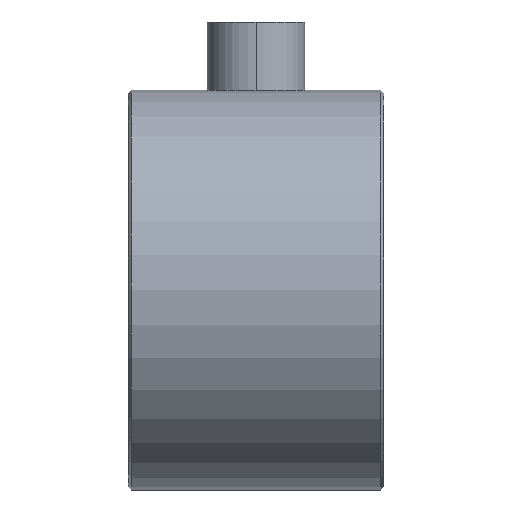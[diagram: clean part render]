
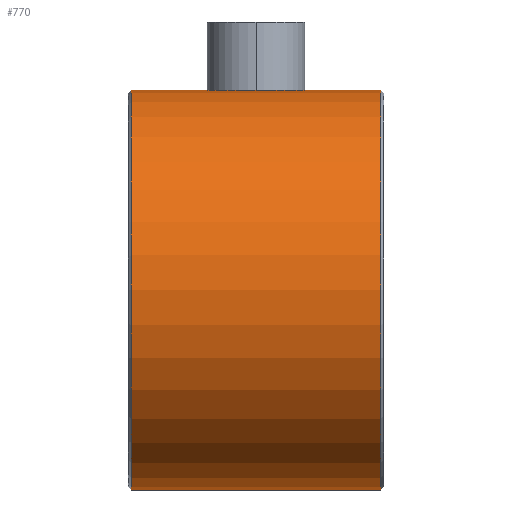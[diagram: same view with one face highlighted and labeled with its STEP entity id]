
A CAD part, left-side view. The second image highlights one B-rep face of the part: STEP entity #770.
In plain terms, the highlighted cylindrical face has radius 14.884 mm (diameter 29.769 mm), a partial arc.
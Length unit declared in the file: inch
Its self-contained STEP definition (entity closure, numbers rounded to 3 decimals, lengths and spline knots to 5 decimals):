
#62 = EDGE_LOOP ( 'NONE', ( #101, #104, #80, #122 ) ) ;
#80 = ORIENTED_EDGE ( 'NONE', *, *, #642, .T. ) ;
#101 = ORIENTED_EDGE ( 'NONE', *, *, #684, .F. ) ;
#104 = ORIENTED_EDGE ( 'NONE', *, *, #647, .T. ) ;
#122 = ORIENTED_EDGE ( 'NONE', *, *, #643, .T. ) ;
#141 = LINE ( 'NONE', #366, #172 ) ;
#165 = CIRCLE ( 'NONE', #693, 0.586 ) ;
#172 = VECTOR ( 'NONE', #391, 39.37008 ) ;
#173 = CIRCLE ( 'NONE', #690, 0.586 ) ;
#189 = LINE ( 'NONE', #543, #192 ) ;
#192 = VECTOR ( 'NONE', #540, 39.37008 ) ;
#228 = FACE_OUTER_BOUND ( 'NONE', #62, .T. ) ;
#230 = CYLINDRICAL_SURFACE ( 'NONE', #697, 0.586 ) ;
#274 = VERTEX_POINT ( 'NONE', #328 ) ;
#281 = VERTEX_POINT ( 'NONE', #339 ) ;
#301 = CARTESIAN_POINT ( 'NONE',  ( 0., 0.01, -0.586 ) ) ;
#314 = CARTESIAN_POINT ( 'NONE',  ( 0., 0.01, 0.586 ) ) ;
#315 = VERTEX_POINT ( 'NONE', #301 ) ;
#327 = VERTEX_POINT ( 'NONE', #314 ) ;
#328 = CARTESIAN_POINT ( 'NONE',  ( 0., 0.74, -0.586 ) ) ;
#339 = CARTESIAN_POINT ( 'NONE',  ( 0., 0.74, 0.586 ) ) ;
#366 = CARTESIAN_POINT ( 'NONE',  ( 0., 0.75, -0.586 ) ) ;
#384 = CARTESIAN_POINT ( 'NONE',  ( 0., 0.01, 0. ) ) ;
#386 = DIRECTION ( 'NONE',  ( 0., 1., 0. ) ) ;
#387 = DIRECTION ( 'NONE',  ( 0., 0., 1. ) ) ;
#389 = CARTESIAN_POINT ( 'NONE',  ( 0., 0.74, 0. ) ) ;
#391 = DIRECTION ( 'NONE',  ( 0., -1., 0. ) ) ;
#392 = DIRECTION ( 'NONE',  ( 0., -1., 0. ) ) ;
#393 = DIRECTION ( 'NONE',  ( 0., 0., 1. ) ) ;
#540 = DIRECTION ( 'NONE',  ( 0., -1., 0. ) ) ;
#543 = CARTESIAN_POINT ( 'NONE',  ( 0., 0.75, 0.586 ) ) ;
#604 = DIRECTION ( 'NONE',  ( 0., 0., -1. ) ) ;
#619 = DIRECTION ( 'NONE',  ( 0., -1., 0. ) ) ;
#624 = CARTESIAN_POINT ( 'NONE',  ( 0., 0.75, 0. ) ) ;
#642 = EDGE_CURVE ( 'NONE', #274, #315, #141, .T. ) ;
#643 = EDGE_CURVE ( 'NONE', #315, #327, #173, .T. ) ;
#647 = EDGE_CURVE ( 'NONE', #281, #274, #165, .T. ) ;
#684 = EDGE_CURVE ( 'NONE', #281, #327, #189, .T. ) ;
#690 = AXIS2_PLACEMENT_3D ( 'NONE', #384, #386, #387 ) ;
#693 = AXIS2_PLACEMENT_3D ( 'NONE', #389, #392, #393 ) ;
#697 = AXIS2_PLACEMENT_3D ( 'NONE', #624, #619, #604 ) ;
#770 = ADVANCED_FACE ( 'NONE', ( #228 ), #230, .T. ) ;
